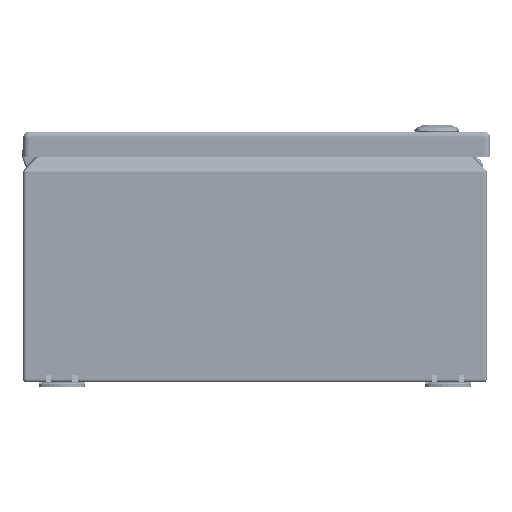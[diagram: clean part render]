
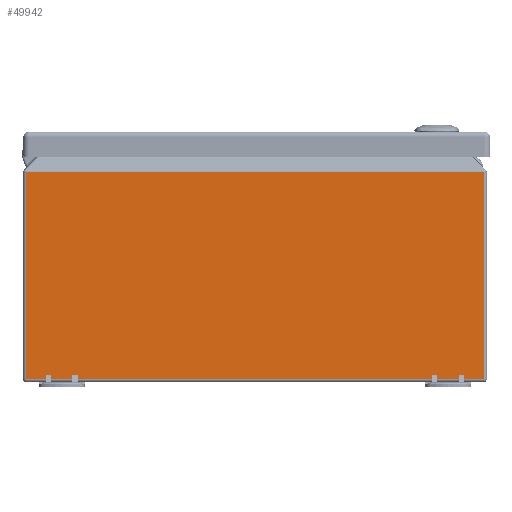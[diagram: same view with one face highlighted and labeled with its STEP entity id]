
A CAD part, front view. The second image highlights one B-rep face of the part: STEP entity #49942.
In plain terms, the highlighted planar face has unit normal (0, -1, 0).
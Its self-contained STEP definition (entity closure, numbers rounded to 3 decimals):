
#6357=FACE_OUTER_BOUND('',#9486,.T.);
#9486=EDGE_LOOP('',(#33743,#33744,#33745,#33746));
#12843=LINE('',#73163,#16778);
#12845=LINE('',#73176,#16780);
#12846=LINE('',#73180,#16781);
#12847=LINE('',#73181,#16782);
#16778=VECTOR('',#59134,0.394);
#16780=VECTOR('',#59152,0.394);
#16781=VECTOR('',#59157,0.394);
#16782=VECTOR('',#59158,0.394);
#20713=VERTEX_POINT('',#73160);
#20714=VERTEX_POINT('',#73162);
#20717=VERTEX_POINT('',#73175);
#20718=VERTEX_POINT('',#73179);
#25643=EDGE_CURVE('',#20713,#20714,#12843,.T.);
#25650=EDGE_CURVE('',#20714,#20717,#12845,.T.);
#25652=EDGE_CURVE('',#20718,#20713,#12846,.T.);
#25653=EDGE_CURVE('',#20717,#20718,#12847,.T.);
#33743=ORIENTED_EDGE('',*,*,#25643,.F.);
#33744=ORIENTED_EDGE('',*,*,#25652,.F.);
#33745=ORIENTED_EDGE('',*,*,#25653,.F.);
#33746=ORIENTED_EDGE('',*,*,#25650,.F.);
#48573=PLANE('',#53888);
#49942=ADVANCED_FACE('',(#6357),#48573,.F.);
#53888=AXIS2_PLACEMENT_3D('',#73178,#59155,#59156);
#59134=DIRECTION('',(0.,0.,1.));
#59152=DIRECTION('',(1.,0.,0.));
#59155=DIRECTION('center_axis',(0.,1.,0.));
#59156=DIRECTION('ref_axis',(0.,0.,1.));
#59157=DIRECTION('',(-1.,0.,0.));
#59158=DIRECTION('',(0.,0.,-1.));
#73160=CARTESIAN_POINT('',(-5.916,-6.,0.084));
#73162=CARTESIAN_POINT('',(-5.916,-6.,5.437));
#73163=CARTESIAN_POINT('',(-5.916,-6.,3.056));
#73175=CARTESIAN_POINT('',(5.916,-6.,5.437));
#73176=CARTESIAN_POINT('',(0.,-6.,5.437));
#73178=CARTESIAN_POINT('Origin',(0.,-6.,2.736));
#73179=CARTESIAN_POINT('',(5.916,-6.,0.084));
#73180=CARTESIAN_POINT('',(0.,-6.,0.084));
#73181=CARTESIAN_POINT('',(5.916,-6.,3.035));
